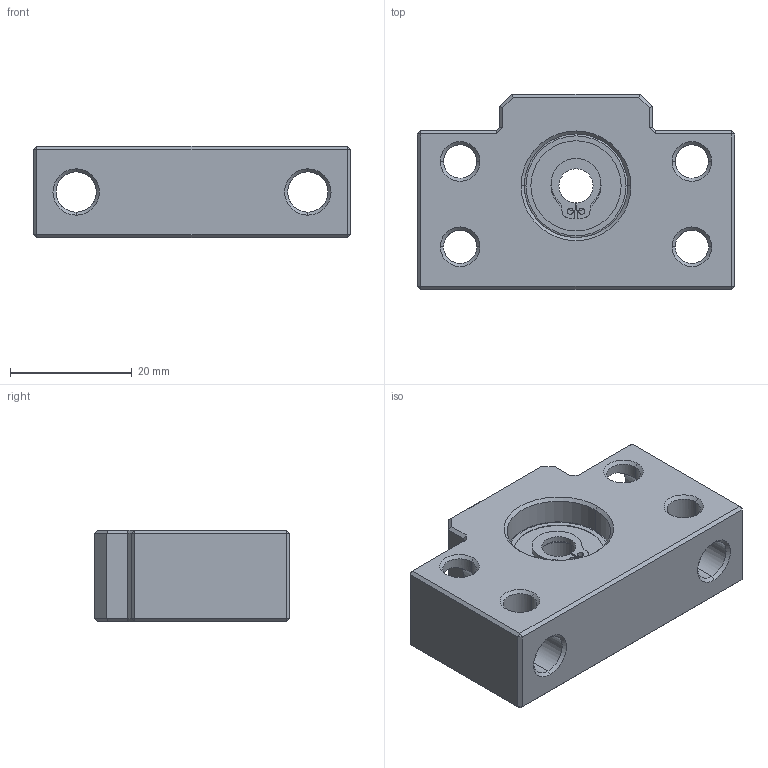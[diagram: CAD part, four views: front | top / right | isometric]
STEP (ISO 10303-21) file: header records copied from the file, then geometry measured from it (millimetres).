
FILE_DESCRIPTION (( 'STEP AP203' ), '1' );
FILE_NAME ('AF08.STEP', '2009-05-22T08:51:44', ( '冠犁泅' ), ( '俺惯何' ), 'SwSTEP 2.0', 'SolidWorks 2007', '' );
FILE_SCHEMA (( 'CONFIG_CONTROL_DESIGN' ));
Length unit declared in the file: millimetre
Products named in the file (4): Heavy Duty External Retaining Ring_am_B27.8M - 3DM1-6; AF08; SAF08_BODY_晦獄 撲薑; 606zz_ル遽
Assembly tree (3 placements, depth 2):
  AF08
    606zz_ル遽
    SAF08_BODY_晦獄 撲薑
    Heavy Duty External Retaining Ring_am_B27.8M - 3DM1-6
Bounding box: 52 x 32 x 15 mm (x, y, z)
Volume: 15134.4 mm3; surface area: 8995.7 mm2
Topology: 2 solids, 14 shells, 194 faces, 502 edges, 295 vertices
Faces by surface type: cylinder 70, plane 68, bspline 30, cone 26
Entity records: 8023 total; most frequent: CARTESIAN_POINT 3136, DIRECTION 949, ORIENTED_EDGE 904, EDGE_CURVE 466, AXIS2_PLACEMENT_3D 364, VERTEX_POINT 293, EDGE_LOOP 225, VECTOR 221
